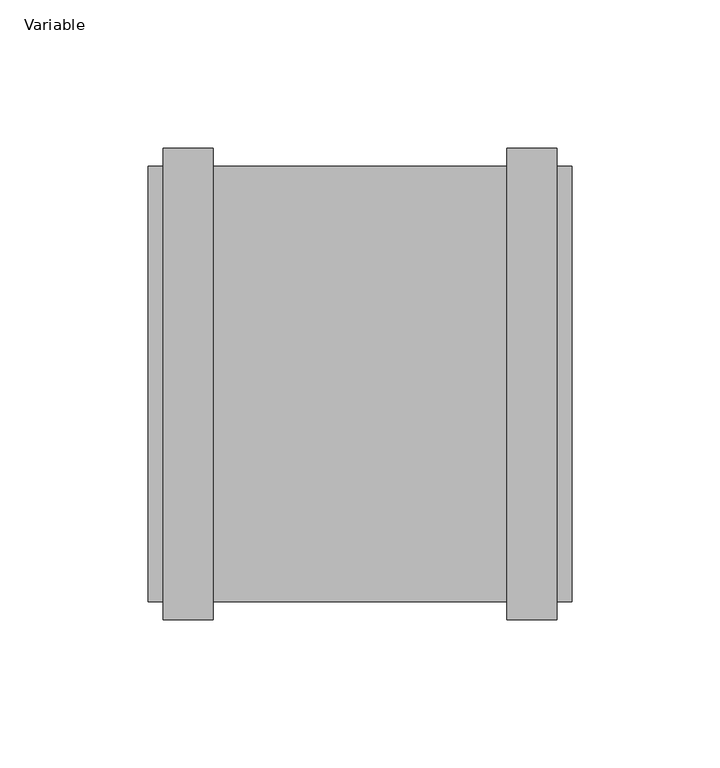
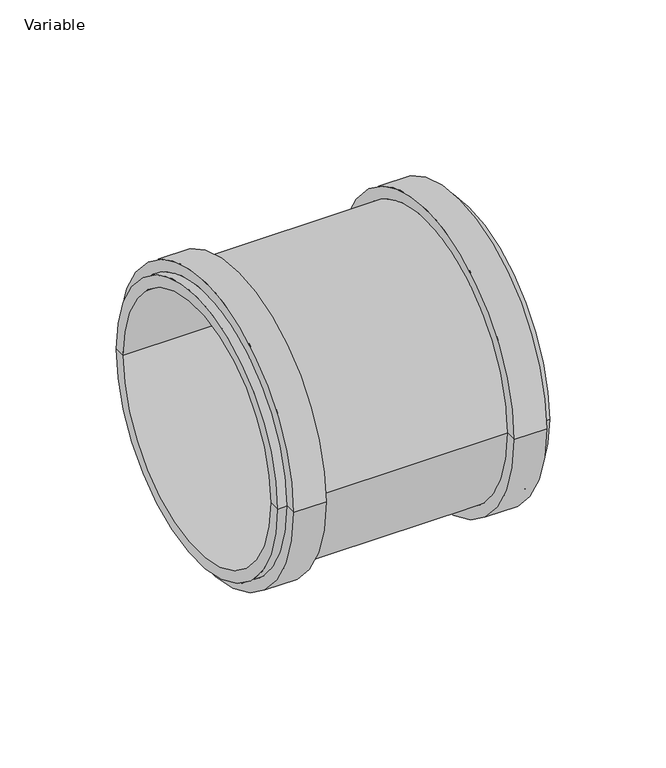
"""IFC4 building model written with IfcOpenShell, lengths in millimetres: pipe fitting geometry, AliaxisFR_Friaphon_SimpleCoupling_FR : Variable."""

import ifcopenshell
import ifcopenshell.guid

model = None  # the IFC model being written
_history = None  # IfcOwnerHistory: only IFC2X3 demands one
_inside = {}  # id of a spatial element -> (the spatial element, [elements in it])
_under = {}  # id of a project, library or spatial element -> (it, [spatial elements below it])
_declared = {}  # id of a project -> (the project, [libraries it declares])
_typed = {}  # id of a type object -> (the type object, [elements of that type])
_made_of = {}  # id of a material, layer set ... -> (it, [elements and type objects made of it])


def new_model(schema):
    """Start an empty IFC model of exactly this schema.

    Asked for "IFC4X3", IfcOpenShell would pick the latest addendum, in which some entities
    have other attributes; the version numbers below select the first issue.
    IFC2X3 requires an IfcOwnerHistory on every rooted entity: one is made here for all.
    """
    global model, _history
    if schema == "IFC4X3":
        model = ifcopenshell.file(schema_version=(4, 3, 0, 0))
    else:
        model = ifcopenshell.file(schema=schema)
    _inside.clear()
    _under.clear()
    _declared.clear()
    _typed.clear()
    _made_of.clear()
    _history = None
    if model.schema == "IFC2X3":
        org = make("IfcOrganization", Name="unknown")
        user = make(
            "IfcPersonAndOrganization",
            ThePerson=make("IfcPerson", FamilyName="unknown"),
            TheOrganization=org,
        )
        app = make(
            "IfcApplication",
            ApplicationDeveloper=org,
            Version="unknown",
            ApplicationFullName="unknown",
            ApplicationIdentifier="unknown",
        )
        _history = make(
            "IfcOwnerHistory",
            OwningUser=user,
            OwningApplication=app,
            ChangeAction="ADDED",
            CreationDate=0,
        )
    return model


def make(cls, **values):
    """One entity of the class cls with the attributes given. An attribute that is None is left unset."""
    return model.create_entity(
        cls, **{name: value for name, value in values.items() if value is not None}
    )


def rooted(cls, **values):
    """An entity with a GlobalId (a new one), such as an element, a storey or a relation."""
    return make(cls, GlobalId=ifcopenshell.guid.new(), OwnerHistory=_history, **values)


def si_unit(unit_type, name, prefix=None):
    """IfcSIUnit, for example si_unit("LENGTHUNIT", "METRE", prefix="MILLI")."""
    return make("IfcSIUnit", UnitType=unit_type, Prefix=prefix, Name=name)


def assignment(units):
    """IfcUnitAssignment: the units of a project."""
    return None if units is None else make("IfcUnitAssignment", Units=units)


def point(xyz):
    """IfcCartesianPoint."""
    return None if xyz is None else make("IfcCartesianPoint", Coordinates=xyz)


def direction(xyz):
    """IfcDirection."""
    return None if xyz is None else make("IfcDirection", DirectionRatios=xyz)


def frame(location, z_axis=None, x_axis=None):
    """IfcAxis2Placement3D, a coordinate frame: its origin and axes. An axis left out is left unset."""
    return make(
        "IfcAxis2Placement3D",
        Location=point(location),
        Axis=direction(z_axis),
        RefDirection=direction(x_axis),
    )


def origin():
    """The frame at (0, 0, 0) with its axes left unset."""
    return frame((0.0, 0.0, 0.0))


def place(relative_to, where):
    """IfcLocalPlacement: puts the frame where relative to a parent placement (None: the world)."""
    return make(
        "IfcLocalPlacement", PlacementRelTo=relative_to, RelativePlacement=where
    )


def context(
    kind, dimensions, precision=None, world=None, true_north=None, identifier=None
):
    """IfcGeometricRepresentationContext, for example the 3D "Model" context."""
    return make(
        "IfcGeometricRepresentationContext",
        ContextIdentifier=identifier,
        ContextType=kind,
        CoordinateSpaceDimension=dimensions,
        Precision=precision,
        WorldCoordinateSystem=world,
        TrueNorth=true_north,
    )


def project(units=None, contexts=None):
    """IfcProject with its units and contexts."""
    return rooted(
        "IfcProject",
        Name="project",
        RepresentationContexts=contexts,
        UnitsInContext=assignment(units),
    )


def spatial(cls, under=None, at=None, **own):
    """A site, building, storey or space (cls), placed at a placement, below another one or the project."""
    s = rooted(cls, ObjectPlacement=at, **own)
    if under is not None:
        _under.setdefault(under.id(), (under, []))[1].append(s)
    return s


def polyline(points):
    """IfcPolyline through the points."""
    return make("IfcPolyline", Points=[point(p) for p in points])


def circle_curve(where, radius):
    """IfcCircle in the frame where."""
    return make("IfcCircle", Position=where, Radius=radius)


def shape(context_of_items, identifier, shape_type, items):
    """IfcShapeRepresentation: the items that make up one representation, for example the "Body"."""
    return make(
        "IfcShapeRepresentation",
        ContextOfItems=context_of_items,
        RepresentationIdentifier=identifier,
        RepresentationType=shape_type,
        Items=items,
    )


def source(mapping_origin, context_of_items, identifier, shape_type, items):
    """IfcRepresentationMap: a shape defined once, which mapped items show again and again."""
    return make(
        "IfcRepresentationMap",
        MappingOrigin=mapping_origin,
        MappedRepresentation=shape(context_of_items, identifier, shape_type, items),
    )


def transform(
    local_origin,
    x_axis=None,
    y_axis=None,
    z_axis=None,
    scale=None,
    scale2=None,
    scale3=None,
    uniform=True,
):
    """IfcCartesianTransformationOperator3D, or its non-uniform kind. x_axis, y_axis, z_axis: its Axis1, 2, 3."""
    if uniform:
        return make(
            "IfcCartesianTransformationOperator3D",
            Axis1=direction(x_axis),
            Axis2=direction(y_axis),
            LocalOrigin=point(local_origin),
            Scale=scale,
            Axis3=direction(z_axis),
        )
    return make(
        "IfcCartesianTransformationOperator3DnonUniform",
        Axis1=direction(x_axis),
        Axis2=direction(y_axis),
        LocalOrigin=point(local_origin),
        Scale=scale,
        Axis3=direction(z_axis),
        Scale2=scale2,
        Scale3=scale3,
    )


def mapped(mapping_source, mapping_target):
    """IfcMappedItem: shows the shape of a source again, moved by a transform."""
    return make(
        "IfcMappedItem", MappingSource=mapping_source, MappingTarget=mapping_target
    )


def made_of(thing, what):
    """Note that an element or type object is made of a material, layer set ...; save() writes the relation."""
    if what is not None:
        _made_of.setdefault(what.id(), (what, []))[1].append(thing)
    return thing


def element(
    cls,
    number,
    at=None,
    inside=None,
    cuts=None,
    type_object=None,
    material=None,
    context=None,
    identifier="Body",
    shape_type=None,
    held_by="IfcProductDefinitionShape",
    body=None,
    shapes=None,
    **own,
):
    """One element of the class cls, such as IfcWall. Its Tag is "e" and its number.

    at: its placement. inside: the storey or other place that contains it. cuts: it is an
    opening in that element (IfcRelVoidsElement). A single representation is given by context,
    identifier, shape_type and body (its items); several are given by shapes. held_by: the class
    of the entity that holds the representations. save() writes the other relations.
    """
    e = rooted(cls, Tag="e%d" % number, ObjectPlacement=at, **own)
    if body is not None:
        shapes = [shape(context, identifier, shape_type, body)]
    if shapes is not None:
        e.Representation = make(held_by, Representations=shapes)
    if inside is not None:
        _inside.setdefault(inside.id(), (inside, []))[1].append(e)
    if cuts is not None:
        rooted(
            "IfcRelVoidsElement", RelatingBuildingElement=cuts, RelatedOpeningElement=e
        )
    if type_object is not None:
        _typed.setdefault(type_object.id(), (type_object, []))[1].append(e)
    return made_of(e, material)


def aggregate(whole, parts):
    """IfcRelAggregates: a whole, such as a stair, and the parts it consists of."""
    return rooted("IfcRelAggregates", RelatingObject=whole, RelatedObjects=parts)


def save(model, path):
    """Write the relations noted so far, then the file.

    IfcRelAggregates (storeys below a building ...), IfcRelContainedInSpatialStructure (elements
    in a storey), IfcRelDefinesByType, IfcRelAssociatesMaterial and IfcRelDeclares: one each for
    every whole, place, type object, material and project.
    """
    for whole, parts in _under.values():
        aggregate(whole, parts)
    for where, things in _inside.values():
        rooted(
            "IfcRelContainedInSpatialStructure",
            RelatedElements=things,
            RelatingStructure=where,
        )
    for kind, things in _typed.values():
        rooted("IfcRelDefinesByType", RelatedObjects=things, RelatingType=kind)
    for what, things in _made_of.values():
        rooted("IfcRelAssociatesMaterial", RelatedObjects=things, RelatingMaterial=what)
    for by, libraries in _declared.values():
        rooted("IfcRelDeclares", RelatingContext=by, RelatedDefinitions=libraries)
    model.write(path)


def plane_surface(at):
    """IfcPlane: the flat surface through the origin of the frame at, square to its z axis."""
    return make("IfcPlane", Position=at)


def cylinder_surface(at, radius):
    """IfcCylindricalSurface: all points at the distance radius from the z axis of the frame at."""
    return make("IfcCylindricalSurface", Position=at, Radius=radius)


def revolved_surface(curve, axis_point, axis_direction):
    """IfcSurfaceOfRevolution: the curve turned about the line through axis_point along axis_direction."""
    return make(
        "IfcSurfaceOfRevolution",
        SweptCurve=make("IfcArbitraryOpenProfileDef", ProfileType="CURVE", Curve=curve),
        AxisPosition=make("IfcAxis1Placement", Location=point(axis_point), Axis=direction(axis_direction)),
    )


def advanced_brep(points, edges, surfaces, faces):
    """IfcAdvancedBrep: a solid bounded by faces that lie on surfaces and meet in shared edges.

    An edge is (start, end): straight between two places in points (the first is 0);
    or (start, end, curve); or (start, end, curve, False) where it runs against its curve.
    A face is (place in surfaces, loops), or (place, loops, False) where it looks against
    its surface's normal. A loop lists edges by number (the first is 1), with a minus sign
    where the edge is run from its end to its start. The first loop is the outer one.
    """
    corners = [point(p) for p in points]
    vertices = [make("IfcVertexPoint", VertexGeometry=c) for c in corners]
    made = []
    for start, end, *more in edges:
        made.append(
            make(
                "IfcEdgeCurve",
                EdgeStart=vertices[start],
                EdgeEnd=vertices[end],
                EdgeGeometry=more[0] if more else make("IfcPolyline", Points=[corners[start], corners[end]]),
                SameSense=more[1] if len(more) > 1 else True,
            )
        )
    hull = []
    for where, loops, *sense in faces:
        bounds = []
        for j, loop in enumerate(loops):
            ring = [make("IfcOrientedEdge", EdgeElement=made[abs(k) - 1], Orientation=k > 0) for k in loop]
            bounds.append(
                make(
                    "IfcFaceOuterBound" if j == 0 else "IfcFaceBound",
                    Bound=make("IfcEdgeLoop", EdgeList=ring),
                    Orientation=True,
                )
            )
        hull.append(make("IfcAdvancedFace", Bounds=bounds, FaceSurface=surfaces[where], SameSense=sense[0] if sense else True))
    return make("IfcAdvancedBrep", Outer=make("IfcClosedShell", CfsFaces=hull))


def variable_ffba2910(model_context):
    return source(origin(), model_context, "Body", "AdvancedBrep", [
        advanced_brep(
        [(74.0, -73.5, 0.0), (74.0, 73.5, 0.0), (74.0, 67.5, 0.0), (74.0, -67.5, 0.0), (69.0, -73.5, 0.0), (69.0, 73.5, 0.0), (69.0, -79.5, 0.0), (69.0, 79.5, 0.0), (52.0, -79.5, 0.0), (52.0, 79.5, 0.0), (52.0, -73.5, 0.0), (52.0, 73.5, 0.0), (-47.0, -73.5, 0.0), (-47.0, 73.5, 0.0), (-47.0, -79.5, 0.0), (-47.0, 79.5, 0.0), (-64.0, -79.5, 0.0), (-64.0, 79.5, 0.0), (-64.0, -73.5, 0.0), (-64.0, 73.5, 0.0), (-69.0, -73.5, 0.0), (-69.0, 73.5, 0.0), (-69.0, -67.5, 0.0), (-69.0, 67.5, 0.0)],
        [
            (0, 1, circle_curve(frame((74.0, 0.0, 0.0), z_axis=(1.0, 0.0, 0.0), x_axis=(0.0, 1.0, 0.0)), 73.5)),
            (1, 2),
            (2, 3, circle_curve(frame((74.0, 0.0, 0.0), z_axis=(-1.0, 0.0, 0.0), x_axis=(0.0, 1.0, 0.0)), 67.5)),
            (3, 0),
            (1, 0, circle_curve(frame((74.0, 0.0, 0.0), z_axis=(1.0, 0.0, 0.0), x_axis=(0.0, 1.0, 0.0)), 73.5)),
            (3, 2, circle_curve(frame((74.0, 0.0, 0.0), z_axis=(-1.0, 0.0, 0.0), x_axis=(0.0, 1.0, 0.0)), 67.5)),
            (4, 5, circle_curve(frame((69.0, 0.0, 0.0), z_axis=(1.0, 0.0, 0.0), x_axis=(0.0, 1.0, 0.0)), 73.5)),
            (5, 1),
            (0, 4),
            (5, 4, circle_curve(frame((69.0, 0.0, 0.0), z_axis=(1.0, 0.0, 0.0), x_axis=(0.0, 1.0, 0.0)), 73.5)),
            (6, 7, circle_curve(frame((69.0, 0.0, 0.0), z_axis=(1.0, 0.0, 0.0), x_axis=(0.0, 1.0, 0.0)), 79.5)),
            (7, 5),
            (4, 6),
            (7, 6, circle_curve(frame((69.0, 0.0, 0.0), z_axis=(1.0, 0.0, 0.0), x_axis=(0.0, 1.0, 0.0)), 79.5)),
            (8, 9, circle_curve(frame((52.0, 0.0, 0.0), z_axis=(1.0, 0.0, 0.0), x_axis=(0.0, 1.0, 0.0)), 79.5)),
            (9, 7),
            (6, 8),
            (9, 8, circle_curve(frame((52.0, 0.0, 0.0), z_axis=(1.0, 0.0, 0.0), x_axis=(0.0, 1.0, 0.0)), 79.5)),
            (10, 11, circle_curve(frame((52.0, 0.0, 0.0), z_axis=(1.0, 0.0, 0.0), x_axis=(0.0, 1.0, 0.0)), 73.5)),
            (11, 9),
            (8, 10),
            (11, 10, circle_curve(frame((52.0, 0.0, 0.0), z_axis=(1.0, 0.0, 0.0), x_axis=(0.0, 1.0, 0.0)), 73.5)),
            (12, 13, circle_curve(frame((-47.0, 0.0, 0.0), z_axis=(1.0, 0.0, 0.0), x_axis=(0.0, 1.0, 0.0)), 73.5)),
            (13, 11),
            (10, 12),
            (13, 12, circle_curve(frame((-47.0, 0.0, 0.0), z_axis=(1.0, 0.0, 0.0), x_axis=(0.0, 1.0, 0.0)), 73.5)),
            (14, 15, circle_curve(frame((-47.0, 0.0, 0.0), z_axis=(1.0, 0.0, 0.0), x_axis=(0.0, 1.0, 0.0)), 79.5)),
            (15, 13),
            (12, 14),
            (15, 14, circle_curve(frame((-47.0, 0.0, 0.0), z_axis=(1.0, 0.0, 0.0), x_axis=(0.0, 1.0, 0.0)), 79.5)),
            (16, 17, circle_curve(frame((-64.0, 0.0, 0.0), z_axis=(1.0, 0.0, 0.0), x_axis=(0.0, 1.0, 0.0)), 79.5)),
            (17, 15),
            (14, 16),
            (17, 16, circle_curve(frame((-64.0, 0.0, 0.0), z_axis=(1.0, 0.0, 0.0), x_axis=(0.0, 1.0, 0.0)), 79.5)),
            (18, 19, circle_curve(frame((-64.0, 0.0, 0.0), z_axis=(1.0, 0.0, 0.0), x_axis=(0.0, 1.0, 0.0)), 73.5)),
            (19, 17),
            (16, 18),
            (19, 18, circle_curve(frame((-64.0, 0.0, 0.0), z_axis=(1.0, 0.0, 0.0), x_axis=(0.0, 1.0, 0.0)), 73.5)),
            (20, 21, circle_curve(frame((-69.0, 0.0, 0.0), z_axis=(1.0, 0.0, 0.0), x_axis=(0.0, 1.0, 0.0)), 73.5)),
            (21, 19),
            (18, 20),
            (21, 20, circle_curve(frame((-69.0, 0.0, 0.0), z_axis=(1.0, 0.0, 0.0), x_axis=(0.0, 1.0, 0.0)), 73.5)),
            (22, 23, circle_curve(frame((-69.0, 0.0, 0.0), z_axis=(1.0, 0.0, 0.0), x_axis=(0.0, 1.0, 0.0)), 67.5)),
            (23, 21),
            (20, 22),
            (23, 22, circle_curve(frame((-69.0, 0.0, 0.0), z_axis=(1.0, 0.0, 0.0), x_axis=(0.0, 1.0, 0.0)), 67.5)),
            (2, 23),
            (22, 3),
        ],
        [
            plane_surface(frame((74.0, 0.0, 0.0), z_axis=(1.0, 0.0, 0.0), x_axis=(0.0, 1.0, 0.0))),
            cylinder_surface(frame((2022.0, 0.0, 0.0), z_axis=(-1.0, 0.0, 0.0), x_axis=(0.0, 1.0, 0.0)), 73.5),
            plane_surface(frame((69.0, 0.0, 0.0), z_axis=(1.0, 0.0, 0.0), x_axis=(0.0, 1.0, 0.0))),
            cylinder_surface(frame((2022.0, 0.0, 0.0), z_axis=(-1.0, 0.0, 0.0), x_axis=(0.0, 1.0, 0.0)), 79.5),
            plane_surface(frame((52.0, 0.0, 0.0), z_axis=(-1.0, 0.0, 0.0), x_axis=(0.0, 1.0, 0.0))),
            plane_surface(frame((-47.0, 0.0, 0.0), z_axis=(1.0, 0.0, 0.0), x_axis=(0.0, 1.0, 0.0))),
            plane_surface(frame((-64.0, 0.0, 0.0), z_axis=(-1.0, 0.0, 0.0), x_axis=(0.0, 1.0, 0.0))),
            plane_surface(frame((-69.0, 0.0, 0.0), z_axis=(-1.0, 0.0, 0.0), x_axis=(0.0, 1.0, 0.0))),
            revolved_surface(polyline([(-69.0, 67.5, 0.0), (74.0, 67.5, 0.0)]), (2022.0, 0.0, 0.0), (-1.0, 0.0, 0.0)),
        ],
        [
            (0, [[1, 2, 3, 4]]),
            (0, [[5, -4, 6, -2]]),
            (1, [[7, 8, -1, 9]]),
            (1, [[10, -9, -5, -8]]),
            (2, [[11, 12, -7, 13]]),
            (2, [[14, -13, -10, -12]]),
            (3, [[15, 16, -11, 17]]),
            (3, [[18, -17, -14, -16]]),
            (4, [[19, 20, -15, 21]]),
            (4, [[22, -21, -18, -20]]),
            (1, [[23, 24, -19, 25]]),
            (1, [[26, -25, -22, -24]]),
            (5, [[27, 28, -23, 29]]),
            (5, [[30, -29, -26, -28]]),
            (3, [[31, 32, -27, 33]]),
            (3, [[34, -33, -30, -32]]),
            (6, [[35, 36, -31, 37]]),
            (6, [[38, -37, -34, -36]]),
            (1, [[39, 40, -35, 41]]),
            (1, [[42, -41, -38, -40]]),
            (7, [[43, 44, -39, 45]]),
            (7, [[46, -45, -42, -44]]),
            (8, [[-3, 47, -43, 48]]),
            (8, [[-6, -48, -46, -47]]),
        ],
    ),
    ])


if __name__ == "__main__":
    model = new_model("IFC4")
    model_context = context("Model", 3, world=origin())
    ifc_project = project(units=[si_unit("LENGTHUNIT", "METRE", prefix="MILLI")], contexts=[model_context])
    site = spatial("IfcSite", under=ifc_project)
    building = spatial("IfcBuilding", under=site)
    placement = place(None, origin())
    variable_shape = variable_ffba2910(model_context)
    element("IfcPipeFitting", 1, ObjectType="AliaxisFR_Friaphon_SimpleCoupling_FR : Variable", at=placement, inside=building, context=model_context, shape_type="MappedRepresentation", body=[
        mapped(variable_shape, transform((0.0, 0.0, 0.0), x_axis=(1.0, 0.0, 0.0), y_axis=(0.0, 1.0, 0.0), z_axis=(0.0, 0.0, 1.0))),
    ])
    save(model, "model.ifc")
